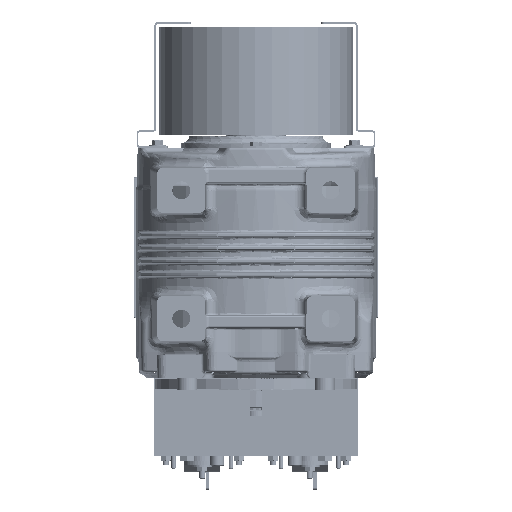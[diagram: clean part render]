
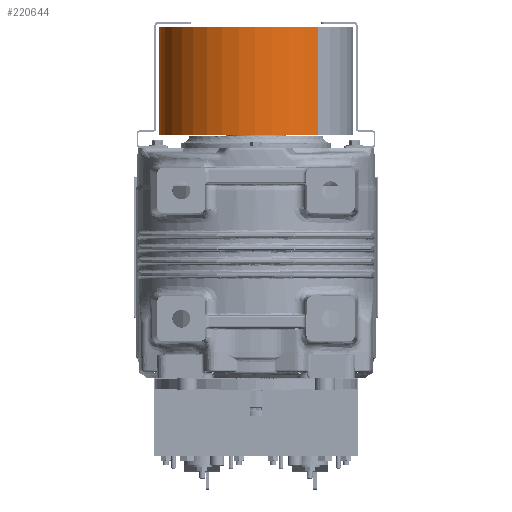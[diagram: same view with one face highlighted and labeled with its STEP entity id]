
A CAD part, front view. The second image highlights one B-rep face of the part: STEP entity #220644.
In plain terms, the highlighted cylindrical face has radius 162 mm (diameter 324 mm), a partial arc.
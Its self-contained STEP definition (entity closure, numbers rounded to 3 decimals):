
#201123=CARTESIAN_POINT('',(0.,-95.,0.));
#201124=DIRECTION('',(0.,1.,0.));
#201125=DIRECTION('',(0.,0.,-1.));
#201126=AXIS2_PLACEMENT_3D('',#201123,#201124,#201125);
#201132=DIRECTION('',(0.,1.,0.));
#201133=VECTOR('',#201132,180.);
#201134=CARTESIAN_POINT('',(0.,-95.,-162.));
#201135=LINE('',#201134,#201133);
#201136=DIRECTION('',(0.,1.,0.));
#201137=VECTOR('',#201136,180.);
#201138=CARTESIAN_POINT('',(0.,-95.,162.));
#201139=LINE('',#201138,#201137);
#201149=CARTESIAN_POINT('',(0.,85.,0.));
#201150=DIRECTION('',(0.,-1.,0.));
#201151=DIRECTION('',(0.,0.,1.));
#201152=AXIS2_PLACEMENT_3D('',#201149,#201150,#201151);
#202507=CARTESIAN_POINT('',(0.,-95.,162.));
#202508=VERTEX_POINT('',#202507);
#202509=CARTESIAN_POINT('',(0.,-95.,-162.));
#202510=VERTEX_POINT('',#202509);
#202511=CARTESIAN_POINT('',(0.,85.,-162.));
#202512=VERTEX_POINT('',#202511);
#202513=CARTESIAN_POINT('',(0.,85.,162.));
#202514=VERTEX_POINT('',#202513);
#220630=CARTESIAN_POINT('',(0.,-186.,0.));
#220631=DIRECTION('',(0.,1.,0.));
#220632=DIRECTION('',(0.,0.,-1.));
#220633=AXIS2_PLACEMENT_3D('',#220630,#220631,#220632);
#220634=CYLINDRICAL_SURFACE('',#220633,162.);
#220635=ORIENTED_EDGE('',*,*,#220624,.F.);
#220637=ORIENTED_EDGE('',*,*,#220636,.T.);
#220639=ORIENTED_EDGE('',*,*,#220638,.F.);
#220641=ORIENTED_EDGE('',*,*,#220640,.F.);
#220642=EDGE_LOOP('',(#220635,#220637,#220639,#220641));
#220643=FACE_OUTER_BOUND('',#220642,.F.);
#220644=ADVANCED_FACE('',(#220643),#220634,.T.);
#201127=CIRCLE('',#201126,162.);
#201153=CIRCLE('',#201152,162.);
#220624=EDGE_CURVE('',#202510,#202508,#201127,.T.);
#220636=EDGE_CURVE('',#202510,#202512,#201135,.T.);
#220638=EDGE_CURVE('',#202514,#202512,#201153,.T.);
#220640=EDGE_CURVE('',#202508,#202514,#201139,.T.);
